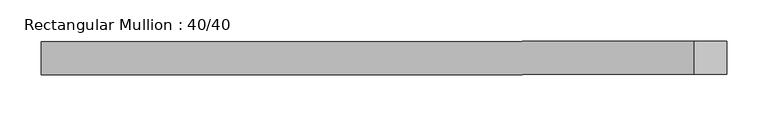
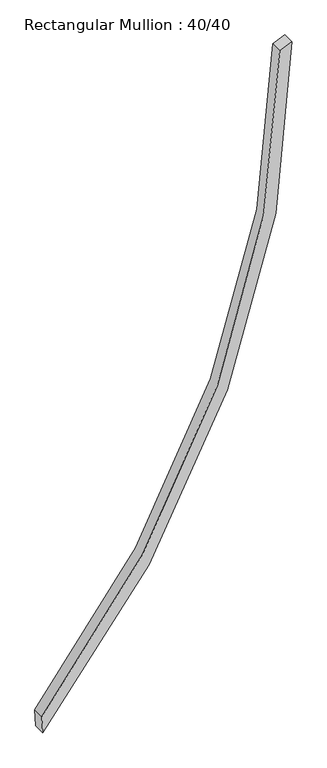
"""IFC4 building model written with IfcOpenShell, lengths in millimetres: member geometry, Rectangular Mullion : 40/40."""

from ifc_helpers import new_model, si_unit, point, frame, frame_2d, origin, place, context, project, spatial, polyline, circle_curve, trimmed, segment, composite_curve, outline, extrude, source, transform, mapped, element, save


def rectangular_mullion_40_40_b7ecf7f3(model_context):
    return source(origin(), model_context, "Body", "SweptSolid", [
        extrude(outline(composite_curve([segment(trimmed(circle_curve(frame_2d((0.0, -3156.9497405)), 3156.9497405), [point((-2130.0237615, -826.8573733))], [point((0.0, 0.0))], False, "CARTESIAN"), True, "CONTINUOUS"), segment(polyline([(0.0, 0.0), (-17.6555468, -40.0500041)]), True, "CONTINUOUS"), segment(trimmed(circle_curve(frame_2d((0.0, -3156.9497405)), 3116.9497405), [point((-17.6555468, -40.0500041))], [point((-2073.1501749, -829.4136963))], True, "CARTESIAN"), True, "CONTINUOUS"), segment(polyline([(-2073.1501749, -829.4136963), (-2130.0237615, -826.8573733)]), True, "CONTINUOUS")], self_intersect=False)), frame((0.0, -20.0, 0.0), z_axis=(0.0, 1.0, 0.0), x_axis=(0.0, 0.0, 1.0)), (0.0, 0.0, 1.0), 40.0),
    ])


if __name__ == "__main__":
    model = new_model("IFC4")
    model_context = context("Model", 3, world=origin())
    ifc_project = project(units=[si_unit("LENGTHUNIT", "METRE", prefix="MILLI")], contexts=[model_context])
    site = spatial("IfcSite", under=ifc_project)
    building = spatial("IfcBuilding", under=site)
    placement = place(None, origin())
    rectangular_mullion_40_40_shape = rectangular_mullion_40_40_b7ecf7f3(model_context)
    element("IfcMember", 1, ObjectType="Rectangular Mullion : 40/40", at=placement, inside=building, context=model_context, shape_type="MappedRepresentation", body=[
        mapped(rectangular_mullion_40_40_shape, transform((0.0, 0.0, 0.0), x_axis=(1.0, 0.0, 0.0), y_axis=(0.0, 1.0, 0.0), z_axis=(0.0, 0.0, 1.0))),
    ])
    save(model, "model.ifc")
